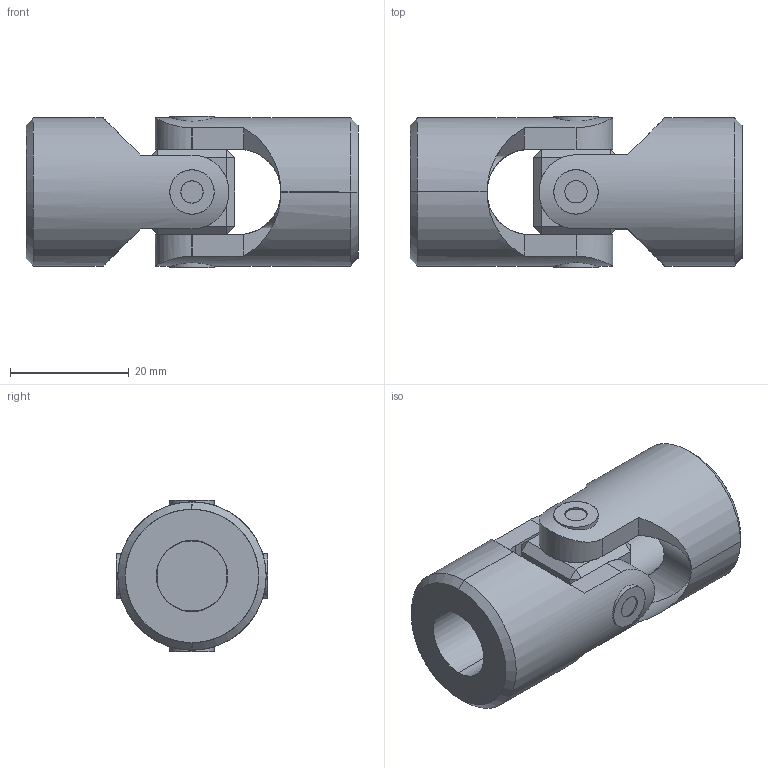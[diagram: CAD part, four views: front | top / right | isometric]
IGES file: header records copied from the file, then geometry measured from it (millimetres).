
Start section: SolidWorks IGES file using analytic representation for surfaces
Global section: file name: C:\Users\IanO\Desktop\R3690_v2\R3690_v2_20231020_IGES\R3690.012-RB.igs; native system: SolidWorks 2019; preprocessor: SolidWorks 2019; author: IanO; date: 231020.152205; units: millimetre
Bounding box: 56 x 25.5 x 25.5 mm (x, y, z)
Surface area: 9961 mm2 (no closed solid volume)
Topology: 0 solids, 0 shells, 104 faces, 2144 edges, 2144 vertices
Faces by surface type: bspline 56, revolution 48
